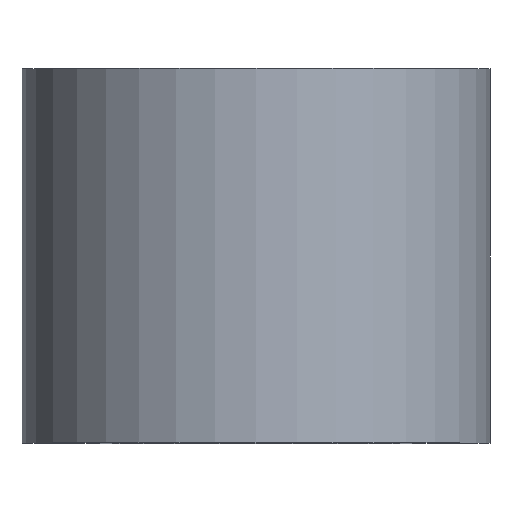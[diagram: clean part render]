
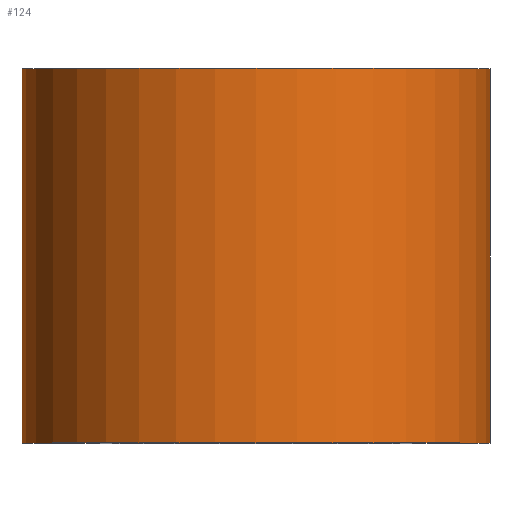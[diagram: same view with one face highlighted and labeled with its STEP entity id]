
A CAD part, top view. The second image highlights one B-rep face of the part: STEP entity #124.
In plain terms, the highlighted cylindrical face has radius 7.5 mm (diameter 15 mm), a partial arc.
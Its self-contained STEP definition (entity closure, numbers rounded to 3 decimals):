
#2 = VERTEX_POINT ( 'NONE', #133 ) ;
#8 = ORIENTED_EDGE ( 'NONE', *, *, #91, .F. ) ;
#12 = DIRECTION ( 'NONE',  ( -1., 0., 0. ) ) ;
#19 = EDGE_CURVE ( 'NONE', #202, #2, #77, .T. ) ;
#20 = CARTESIAN_POINT ( 'NONE',  ( -7.5, 12., 0. ) ) ;
#23 = EDGE_CURVE ( 'NONE', #294, #2, #51, .T. ) ;
#25 = ORIENTED_EDGE ( 'NONE', *, *, #23, .F. ) ;
#51 = CIRCLE ( 'NONE', #242, 7.5 ) ;
#61 = DIRECTION ( 'NONE',  ( 0., 1., 0. ) ) ;
#77 = LINE ( 'NONE', #290, #287 ) ;
#79 = EDGE_CURVE ( 'NONE', #182, #202, #158, .T. ) ;
#84 = FACE_OUTER_BOUND ( 'NONE', #265, .T. ) ;
#91 = EDGE_CURVE ( 'NONE', #182, #294, #152, .T. ) ;
#101 = DIRECTION ( 'NONE',  ( 0., 1., 0. ) ) ;
#104 = AXIS2_PLACEMENT_3D ( 'NONE', #188, #245, #106 ) ;
#106 = DIRECTION ( 'NONE',  ( -1., 0., 0. ) ) ;
#113 = CARTESIAN_POINT ( 'NONE',  ( 0., 12., 0. ) ) ;
#124 = ADVANCED_FACE ( 'NONE', ( #84 ), #186, .T. ) ;
#127 = ORIENTED_EDGE ( 'NONE', *, *, #19, .T. ) ;
#133 = CARTESIAN_POINT ( 'NONE',  ( 7.5, 12., 0. ) ) ;
#152 = LINE ( 'NONE', #225, #248 ) ;
#158 = CIRCLE ( 'NONE', #168, 7.5 ) ;
#168 = AXIS2_PLACEMENT_3D ( 'NONE', #246, #61, #12 ) ;
#182 = VERTEX_POINT ( 'NONE', #255 ) ;
#186 = CYLINDRICAL_SURFACE ( 'NONE', #104, 7.5 ) ;
#188 = CARTESIAN_POINT ( 'NONE',  ( 0., 0., 0. ) ) ;
#201 = ORIENTED_EDGE ( 'NONE', *, *, #79, .T. ) ;
#202 = VERTEX_POINT ( 'NONE', #256 ) ;
#225 = CARTESIAN_POINT ( 'NONE',  ( -7.5, 0., 0. ) ) ;
#227 = DIRECTION ( 'NONE',  ( -1., 0., 0. ) ) ;
#229 = DIRECTION ( 'NONE',  ( 0., 1., 0. ) ) ;
#242 = AXIS2_PLACEMENT_3D ( 'NONE', #113, #271, #227 ) ;
#245 = DIRECTION ( 'NONE',  ( 0., 1., 0. ) ) ;
#246 = CARTESIAN_POINT ( 'NONE',  ( 0., 0., 0. ) ) ;
#248 = VECTOR ( 'NONE', #229, 1000. ) ;
#255 = CARTESIAN_POINT ( 'NONE',  ( -7.5, 0., 0. ) ) ;
#256 = CARTESIAN_POINT ( 'NONE',  ( 7.5, 0., 0. ) ) ;
#265 = EDGE_LOOP ( 'NONE', ( #201, #127, #25, #8 ) ) ;
#271 = DIRECTION ( 'NONE',  ( 0., 1., 0. ) ) ;
#287 = VECTOR ( 'NONE', #101, 1000. ) ;
#290 = CARTESIAN_POINT ( 'NONE',  ( 7.5, 0., 0. ) ) ;
#294 = VERTEX_POINT ( 'NONE', #20 ) ;
